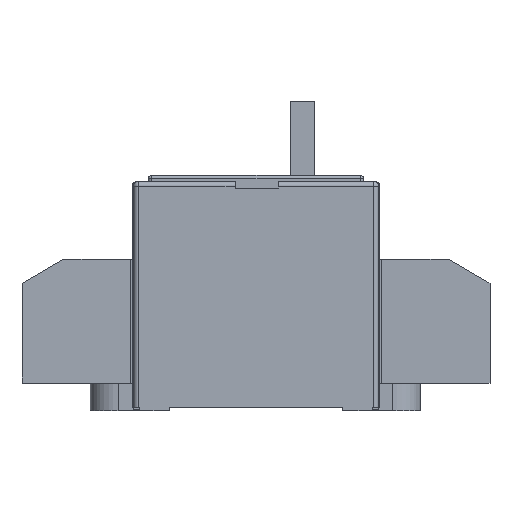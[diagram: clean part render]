
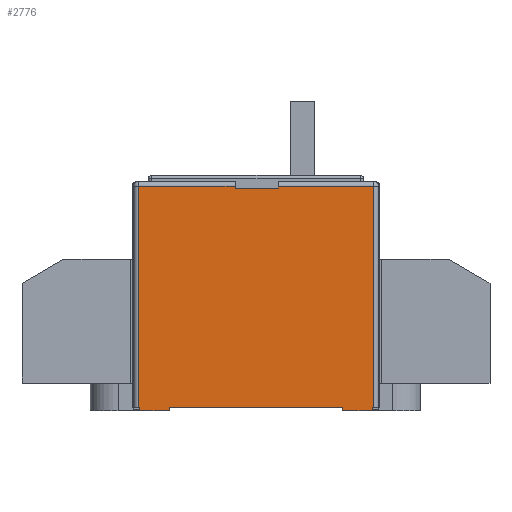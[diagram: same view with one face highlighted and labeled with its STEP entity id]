
A CAD part, left-side view. The second image highlights one B-rep face of the part: STEP entity #2776.
In plain terms, the highlighted planar face has unit normal (-1, 0, 0).
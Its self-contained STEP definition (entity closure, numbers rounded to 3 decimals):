
#848=LINE('',#14167,#1872);
#897=LINE('',#14284,#1921);
#899=LINE('',#14290,#1923);
#978=LINE('',#14639,#2002);
#995=LINE('',#14726,#2019);
#1039=LINE('',#14824,#2063);
#1044=LINE('',#14836,#2068);
#1046=LINE('',#14839,#2070);
#1052=LINE('',#14852,#2076);
#1221=LINE('',#15197,#2245);
#1227=LINE('',#15208,#2251);
#1228=LINE('',#15212,#2252);
#1229=LINE('',#15214,#2253);
#1230=LINE('',#15216,#2254);
#1231=LINE('',#15217,#2255);
#1232=LINE('',#15218,#2256);
#1872=VECTOR('',#11475,1.);
#1921=VECTOR('',#11560,1.);
#1923=VECTOR('',#11566,1.);
#2002=VECTOR('',#11883,1.);
#2019=VECTOR('',#12000,1.);
#2063=VECTOR('',#12098,1.);
#2068=VECTOR('',#12105,1.);
#2070=VECTOR('',#12109,1.);
#2076=VECTOR('',#12117,1.);
#2245=VECTOR('',#12418,1.);
#2251=VECTOR('',#12430,1.);
#2252=VECTOR('',#12435,1.);
#2253=VECTOR('',#12436,1.);
#2254=VECTOR('',#12437,1.);
#2255=VECTOR('',#12438,1.);
#2256=VECTOR('',#12439,1.);
#2776=ADVANCED_FACE('',(#3557),#3105,.F.);
#3105=PLANE('',#10005);
#3557=FACE_OUTER_BOUND('',#4102,.T.);
#4102=EDGE_LOOP('',(#6294,#6295,#6296,#6297,#6298,#6299,#6300,#6301,#6302,
#6303,#6304,#6305,#6306,#6307,#6308,#6309));
#6294=ORIENTED_EDGE('',*,*,#8885,.F.);
#6295=ORIENTED_EDGE('',*,*,#8633,.T.);
#6296=ORIENTED_EDGE('',*,*,#8435,.T.);
#6297=ORIENTED_EDGE('',*,*,#8379,.F.);
#6298=ORIENTED_EDGE('',*,*,#8438,.T.);
#6299=ORIENTED_EDGE('',*,*,#8590,.T.);
#6300=ORIENTED_EDGE('',*,*,#8887,.T.);
#6301=ORIENTED_EDGE('',*,*,#8888,.T.);
#6302=ORIENTED_EDGE('',*,*,#8889,.F.);
#6303=ORIENTED_EDGE('',*,*,#8683,.F.);
#6304=ORIENTED_EDGE('',*,*,#8688,.T.);
#6305=ORIENTED_EDGE('',*,*,#8890,.T.);
#6306=ORIENTED_EDGE('',*,*,#8696,.F.);
#6307=ORIENTED_EDGE('',*,*,#8690,.F.);
#6308=ORIENTED_EDGE('',*,*,#8879,.T.);
#6309=ORIENTED_EDGE('',*,*,#8891,.T.);
#7312=VERTEX_POINT('',#14166);
#7313=VERTEX_POINT('',#14168);
#7359=VERTEX_POINT('',#14285);
#7361=VERTEX_POINT('',#14291);
#7468=VERTEX_POINT('',#14634);
#7469=VERTEX_POINT('',#14638);
#7517=VERTEX_POINT('',#14825);
#7518=VERTEX_POINT('',#14826);
#7522=VERTEX_POINT('',#14835);
#7523=VERTEX_POINT('',#14840);
#7524=VERTEX_POINT('',#14841);
#7527=VERTEX_POINT('',#14849);
#7638=VERTEX_POINT('',#15196);
#7641=VERTEX_POINT('',#15209);
#7642=VERTEX_POINT('',#15213);
#7643=VERTEX_POINT('',#15215);
#8379=EDGE_CURVE('',#7312,#7313,#848,.T.);
#8435=EDGE_CURVE('',#7359,#7313,#897,.T.);
#8438=EDGE_CURVE('',#7312,#7361,#899,.T.);
#8590=EDGE_CURVE('',#7361,#7469,#978,.T.);
#8633=EDGE_CURVE('',#7468,#7359,#995,.T.);
#8683=EDGE_CURVE('',#7517,#7518,#1039,.T.);
#8688=EDGE_CURVE('',#7517,#7522,#1044,.T.);
#8690=EDGE_CURVE('',#7523,#7524,#1046,.T.);
#8696=EDGE_CURVE('',#7524,#7527,#1052,.T.);
#8879=EDGE_CURVE('',#7523,#7638,#1221,.T.);
#8885=EDGE_CURVE('',#7468,#7641,#1227,.T.);
#8887=EDGE_CURVE('',#7469,#7642,#1228,.T.);
#8888=EDGE_CURVE('',#7642,#7643,#1229,.T.);
#8889=EDGE_CURVE('',#7518,#7643,#1230,.T.);
#8890=EDGE_CURVE('',#7522,#7527,#1231,.T.);
#8891=EDGE_CURVE('',#7638,#7641,#1232,.T.);
#10005=AXIS2_PLACEMENT_3D('',#15219,#12440,#12441);
#11475=DIRECTION('',(0.,-1.,0.));
#11560=DIRECTION('',(0.,0.,-1.));
#11566=DIRECTION('',(0.,0.,1.));
#11883=DIRECTION('',(0.,1.,0.));
#12000=DIRECTION('',(0.,1.,0.));
#12098=DIRECTION('',(0.,1.,0.));
#12105=DIRECTION('',(0.,0.,1.));
#12109=DIRECTION('',(0.,1.,0.));
#12117=DIRECTION('',(0.,0.,1.));
#12418=DIRECTION('',(0.,0.,1.));
#12430=DIRECTION('',(0.,0.,-1.));
#12435=DIRECTION('',(0.,0.,-1.));
#12436=DIRECTION('',(0.,-1.,0.));
#12437=DIRECTION('',(0.,0.,1.));
#12438=DIRECTION('',(0.,-1.,0.));
#12439=DIRECTION('',(0.,-1.,0.));
#12440=DIRECTION('',(1.,0.,0.));
#12441=DIRECTION('',(0.,0.,-1.));
#14166=CARTESIAN_POINT('',(-69.,-17.985,67.));
#14167=CARTESIAN_POINT('',(-69.,12.765,67.));
#14168=CARTESIAN_POINT('',(-69.,-31.985,67.));
#14284=CARTESIAN_POINT('',(-69.,-31.985,69.1));
#14285=CARTESIAN_POINT('',(-69.,-31.985,67.6));
#14290=CARTESIAN_POINT('',(-69.,-17.985,69.1));
#14291=CARTESIAN_POINT('',(-69.,-17.985,67.6));
#14634=CARTESIAN_POINT('',(-69.,-62.735,67.6));
#14638=CARTESIAN_POINT('',(-69.,13.265,67.6));
#14639=CARTESIAN_POINT('',(-69.,13.265,67.6));
#14726=CARTESIAN_POINT('',(-69.,13.265,67.6));
#14824=CARTESIAN_POINT('',(-69.,3.265,-4.9));
#14825=CARTESIAN_POINT('',(-69.,3.265,-4.9));
#14826=CARTESIAN_POINT('',(-69.,12.765,-4.9));
#14835=CARTESIAN_POINT('',(-69.,3.265,-3.9));
#14836=CARTESIAN_POINT('',(-69.,3.265,-5.9));
#14839=CARTESIAN_POINT('',(-69.,-62.235,-4.9));
#14840=CARTESIAN_POINT('',(-69.,-62.235,-4.9));
#14841=CARTESIAN_POINT('',(-69.,-52.735,-4.9));
#14849=CARTESIAN_POINT('',(-69.,-52.735,-3.9));
#14852=CARTESIAN_POINT('',(-69.,-52.735,-5.9));
#15196=CARTESIAN_POINT('',(-69.,-62.235,-3.9));
#15197=CARTESIAN_POINT('',(-69.,-62.235,-5.9));
#15208=CARTESIAN_POINT('',(-69.,-62.735,69.1));
#15209=CARTESIAN_POINT('',(-69.,-62.735,-3.9));
#15212=CARTESIAN_POINT('',(-69.,13.265,69.1));
#15213=CARTESIAN_POINT('',(-69.,13.265,-3.9));
#15214=CARTESIAN_POINT('',(-69.,-62.235,-3.9));
#15215=CARTESIAN_POINT('',(-69.,12.765,-3.9));
#15216=CARTESIAN_POINT('',(-69.,12.765,-5.9));
#15217=CARTESIAN_POINT('',(-69.,-62.235,-3.9));
#15218=CARTESIAN_POINT('',(-69.,-62.235,-3.9));
#15219=CARTESIAN_POINT('',(-69.,-62.235,69.1));
